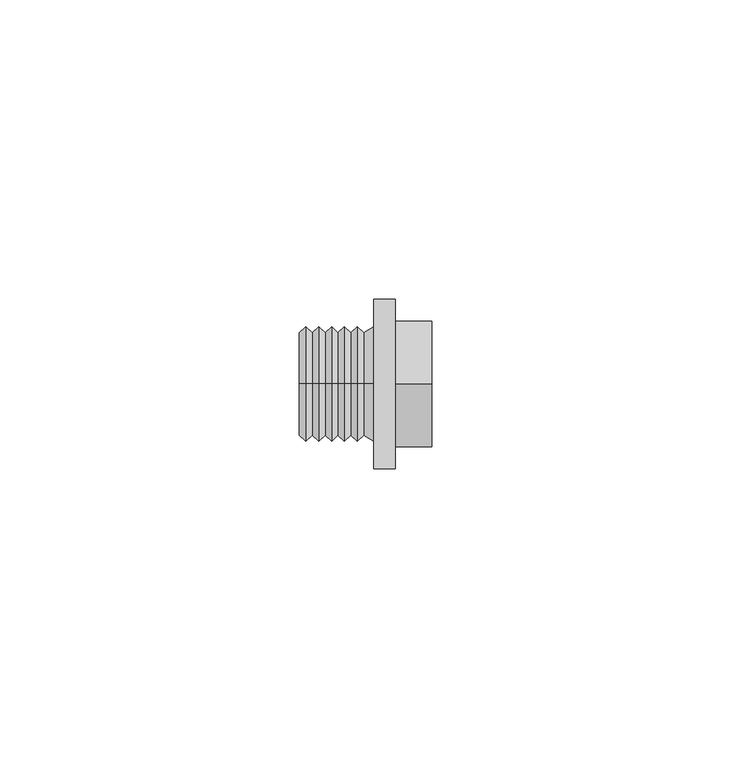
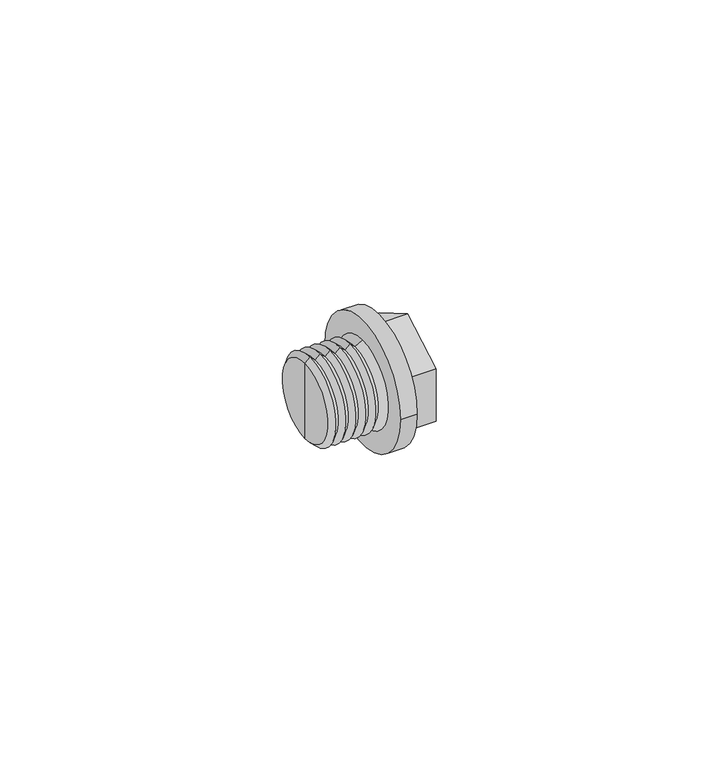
"""IFC4 building model written with IfcOpenShell, lengths in millimetres: pipe fitting geometry, EGB_VASEN_ PPR_Tapon roscado WXR701 : Tapón roscado WXR701."""

from ifc_helpers import new_model, si_unit, point, frame, origin, origin_2d, place, context, project, spatial, polyline, circle_curve, trimmed, segment, composite_curve, outline, extrude, source, transform, mapped, element, save
from ifc_brep_helpers import plane_surface, revolved_surface, advanced_brep


def pipe_fitting_885c478e(model_context):
    return source(origin(), model_context, "Body", "SolidModel", [
        advanced_brep(
        [(-11.323, 0.0, -9.5939161), (-11.323, 0.0, 9.5939161), (-12.4, 0.0, 8.5847628), (-12.4, 0.0, -8.5847628), (-10.246, 0.0, -8.5847628), (-10.246, 0.0, 8.5847628), (-9.169, 0.0, -9.5939161), (-9.169, 0.0, 9.5939161), (-8.092, 0.0, -8.5847628), (-8.092, 0.0, 8.5847628), (-7.015, 0.0, -9.5939161), (-7.015, 0.0, 9.5939161), (-5.938, 0.0, -8.5847628), (-5.938, 0.0, 8.5847628), (-4.861, 0.0, -9.5939161), (-4.861, 0.0, 9.5939161), (-3.784, 0.0, -8.5847628), (-3.784, 0.0, 8.5847628), (-2.707, 0.0, -9.5939161), (-2.707, 0.0, 9.5939161), (-1.63, 0.0, -8.5847628), (-1.63, 0.0, 8.5847628), (0.0, 0.0, -9.5939161), (0.0, 0.0, 9.5939161), (0.0, 0.0, 0.0), (-12.3999988, 0.0, 0.0)],
        [
            (0, 1, circle_curve(frame((-11.323, 0.0, 0.0), z_axis=(-1.0, 0.0, 0.0), x_axis=(0.0, 0.0, 1.0)), 9.5939161)),
            (1, 2),
            (2, 3, circle_curve(frame((-12.4, 0.0, 0.0), z_axis=(1.0, 0.0, 0.0), x_axis=(0.0, 0.0, 1.0)), 8.5847628)),
            (3, 0),
            (1, 0, circle_curve(frame((-11.323, 0.0, 0.0), z_axis=(-1.0, 0.0, 0.0), x_axis=(0.0, 0.0, 1.0)), 9.5939161)),
            (3, 2, circle_curve(frame((-12.4, 0.0, 0.0), z_axis=(1.0, 0.0, 0.0), x_axis=(0.0, 0.0, 1.0)), 8.5847628)),
            (4, 5, circle_curve(frame((-10.246, 0.0, 0.0), z_axis=(-1.0, 0.0, 0.0), x_axis=(0.0, 0.0, 1.0)), 8.5847628)),
            (5, 1),
            (0, 4),
            (5, 4, circle_curve(frame((-10.246, 0.0, 0.0), z_axis=(-1.0, 0.0, 0.0), x_axis=(0.0, 0.0, 1.0)), 8.5847628)),
            (6, 7, circle_curve(frame((-9.169, 0.0, 0.0), z_axis=(-1.0, 0.0, 0.0), x_axis=(0.0, 0.0, 1.0)), 9.5939161)),
            (7, 5),
            (4, 6),
            (7, 6, circle_curve(frame((-9.169, 0.0, 0.0), z_axis=(-1.0, 0.0, 0.0), x_axis=(0.0, 0.0, 1.0)), 9.5939161)),
            (8, 9, circle_curve(frame((-8.092, 0.0, 0.0), z_axis=(-1.0, 0.0, 0.0), x_axis=(0.0, 0.0, 1.0)), 8.5847628)),
            (9, 7),
            (6, 8),
            (9, 8, circle_curve(frame((-8.092, 0.0, 0.0), z_axis=(-1.0, 0.0, 0.0), x_axis=(0.0, 0.0, 1.0)), 8.5847628)),
            (10, 11, circle_curve(frame((-7.015, 0.0, 0.0), z_axis=(-1.0, 0.0, 0.0), x_axis=(0.0, 0.0, 1.0)), 9.5939161)),
            (11, 9),
            (8, 10),
            (11, 10, circle_curve(frame((-7.015, 0.0, 0.0), z_axis=(-1.0, 0.0, 0.0), x_axis=(0.0, 0.0, 1.0)), 9.5939161)),
            (12, 13, circle_curve(frame((-5.938, 0.0, 0.0), z_axis=(-1.0, 0.0, 0.0), x_axis=(0.0, 0.0, 1.0)), 8.5847628)),
            (13, 11),
            (10, 12),
            (13, 12, circle_curve(frame((-5.938, 0.0, 0.0), z_axis=(-1.0, 0.0, 0.0), x_axis=(0.0, 0.0, 1.0)), 8.5847628)),
            (14, 15, circle_curve(frame((-4.861, 0.0, 0.0), z_axis=(-1.0, 0.0, 0.0), x_axis=(0.0, 0.0, 1.0)), 9.5939161)),
            (15, 13),
            (12, 14),
            (15, 14, circle_curve(frame((-4.861, 0.0, 0.0), z_axis=(-1.0, 0.0, 0.0), x_axis=(0.0, 0.0, 1.0)), 9.5939161)),
            (16, 17, circle_curve(frame((-3.784, 0.0, 0.0), z_axis=(-1.0, 0.0, 0.0), x_axis=(0.0, 0.0, 1.0)), 8.5847628)),
            (17, 15),
            (14, 16),
            (17, 16, circle_curve(frame((-3.784, 0.0, 0.0), z_axis=(-1.0, 0.0, 0.0), x_axis=(0.0, 0.0, 1.0)), 8.5847628)),
            (18, 19, circle_curve(frame((-2.707, 0.0, 0.0), z_axis=(-1.0, 0.0, 0.0), x_axis=(0.0, 0.0, 1.0)), 9.5939161)),
            (19, 17),
            (16, 18),
            (19, 18, circle_curve(frame((-2.707, 0.0, 0.0), z_axis=(-1.0, 0.0, 0.0), x_axis=(0.0, 0.0, 1.0)), 9.5939161)),
            (20, 21, circle_curve(frame((-1.63, 0.0, 0.0), z_axis=(-1.0, 0.0, 0.0), x_axis=(0.0, 0.0, 1.0)), 8.5847628)),
            (21, 19),
            (18, 20),
            (21, 20, circle_curve(frame((-1.63, 0.0, 0.0), z_axis=(-1.0, 0.0, 0.0), x_axis=(0.0, 0.0, 1.0)), 8.5847628)),
            (22, 23, circle_curve(frame((0.0, 0.0, 0.0), z_axis=(-1.0, 0.0, 0.0), x_axis=(0.0, 0.0, 1.0)), 9.5939161)),
            (23, 21),
            (20, 22),
            (23, 22, circle_curve(frame((0.0, 0.0, 0.0), z_axis=(-1.0, 0.0, 0.0), x_axis=(0.0, 0.0, 1.0)), 9.5939161)),
            (24, 23),
            (22, 24),
            (2, 25),
            (25, 3),
        ],
        [
            revolved_surface(polyline([(-12.4, 0.0, 8.5847628), (-11.323, 0.0, 9.5939161)]), (-2044.720081, 0.0, 0.0), (1.0, 0.0, 0.0)),
            revolved_surface(polyline([(-11.323, 0.0, 9.5939161), (-10.246, 0.0, 8.5847628)]), (-2044.720081, 0.0, 0.0), (1.0, 0.0, 0.0)),
            revolved_surface(polyline([(-10.246, 0.0, 8.5847628), (-9.169, 0.0, 9.5939161)]), (-2044.720081, 0.0, 0.0), (1.0, 0.0, 0.0)),
            revolved_surface(polyline([(-9.169, 0.0, 9.5939161), (-8.092, 0.0, 8.5847628)]), (-2044.720081, 0.0, 0.0), (1.0, 0.0, 0.0)),
            revolved_surface(polyline([(-8.092, 0.0, 8.5847628), (-7.015, 0.0, 9.5939161)]), (-2044.720081, 0.0, 0.0), (1.0, 0.0, 0.0)),
            revolved_surface(polyline([(-7.015, 0.0, 9.5939161), (-5.938, 0.0, 8.5847628)]), (-2044.720081, 0.0, 0.0), (1.0, 0.0, 0.0)),
            revolved_surface(polyline([(-5.938, 0.0, 8.5847628), (-4.861, 0.0, 9.5939161)]), (-2044.720081, 0.0, 0.0), (1.0, 0.0, 0.0)),
            revolved_surface(polyline([(-4.861, 0.0, 9.5939161), (-3.784, 0.0, 8.5847628)]), (-2044.720081, 0.0, 0.0), (1.0, 0.0, 0.0)),
            revolved_surface(polyline([(-3.784, 0.0, 8.5847628), (-2.707, 0.0, 9.5939161)]), (-2044.720081, 0.0, 0.0), (1.0, 0.0, 0.0)),
            revolved_surface(polyline([(-2.707, 0.0, 9.5939161), (-1.63, 0.0, 8.5847628)]), (-2044.720081, 0.0, 0.0), (1.0, 0.0, 0.0)),
            revolved_surface(polyline([(-1.63, 0.0, 8.5847628), (0.0, 0.0, 9.5939161)]), (-2044.720081, 0.0, 0.0), (1.0, 0.0, 0.0)),
            plane_surface(frame((0.0, 0.0, 0.0), z_axis=(1.0, 0.0, 0.0), x_axis=(0.0, 0.0, 1.0))),
            plane_surface(frame((-12.3999988, 0.0, 0.0), z_axis=(-1.0, 0.0, 0.0), x_axis=(0.0, 0.0, 1.0))),
        ],
        [
            (0, [[1, 2, 3, 4]]),
            (0, [[5, -4, 6, -2]]),
            (1, [[7, 8, -1, 9]]),
            (1, [[10, -9, -5, -8]]),
            (2, [[11, 12, -7, 13]]),
            (2, [[14, -13, -10, -12]]),
            (3, [[15, 16, -11, 17]]),
            (3, [[18, -17, -14, -16]]),
            (4, [[19, 20, -15, 21]]),
            (4, [[22, -21, -18, -20]]),
            (5, [[23, 24, -19, 25]]),
            (5, [[26, -25, -22, -24]]),
            (6, [[27, 28, -23, 29]]),
            (6, [[30, -29, -26, -28]]),
            (7, [[31, 32, -27, 33]]),
            (7, [[34, -33, -30, -32]]),
            (8, [[35, 36, -31, 37]]),
            (8, [[38, -37, -34, -36]]),
            (9, [[39, 40, -35, 41]]),
            (9, [[42, -41, -38, -40]]),
            (10, [[43, 44, -39, 45]]),
            (10, [[46, -45, -42, -44]]),
            (11, [[47, -43, 48]]),
            (11, [[-48, -46, -47]]),
            (12, [[-3, 49, 50]]),
            (12, [[-6, -50, -49]]),
        ],
    ),
        extrude(outline(polyline([(10.5226174, 6.0), (10.5226174, -6.0), (0.0, -12.2), (-10.5226174, -6.0), (-10.5226174, 6.0), (0.0, 12.2), (10.5226174, 6.0)])), frame((3.5999988, 0.0, 0.0), z_axis=(1.0, 0.0, 0.0), x_axis=(0.0, 1.0, 0.0)), (0.0, 0.0, 1.0), 6.1000012),
        extrude(outline(composite_curve([segment(trimmed(circle_curve(origin_2d(), 14.15), [point((-14.15, 0.0))], [point((14.15, 0.0))], False, "CARTESIAN"), True, "CONTINUOUS"), segment(trimmed(circle_curve(origin_2d(), 14.15), [point((14.15, 0.0))], [point((-14.15, 0.0))], False, "CARTESIAN"), True, "CONTINUOUS")], self_intersect=False)), frame((0.0, 0.0, 0.0), z_axis=(1.0, 0.0, 0.0), x_axis=(0.0, 1.0, 0.0)), (0.0, 0.0, 1.0), 3.5999988),
    ])


if __name__ == "__main__":
    model = new_model("IFC4")
    model_context = context("Model", 3, world=origin())
    ifc_project = project(units=[si_unit("LENGTHUNIT", "METRE", prefix="MILLI")], contexts=[model_context])
    site = spatial("IfcSite", under=ifc_project)
    building = spatial("IfcBuilding", under=site)
    placement = place(None, origin())
    pipe_fitting_shape = pipe_fitting_885c478e(model_context)
    element("IfcPipeFitting", 1, ObjectType="EGB_VASEN_ PPR_Tapon roscado WXR701 : Tapón roscado WXR701", at=placement, inside=building, context=model_context, shape_type="MappedRepresentation", body=[
        mapped(pipe_fitting_shape, transform((0.0, 0.0, 0.0), x_axis=(1.0, 0.0, 0.0), y_axis=(0.0, 1.0, 0.0), z_axis=(0.0, 0.0, 1.0))),
    ])
    save(model, "model.ifc")
